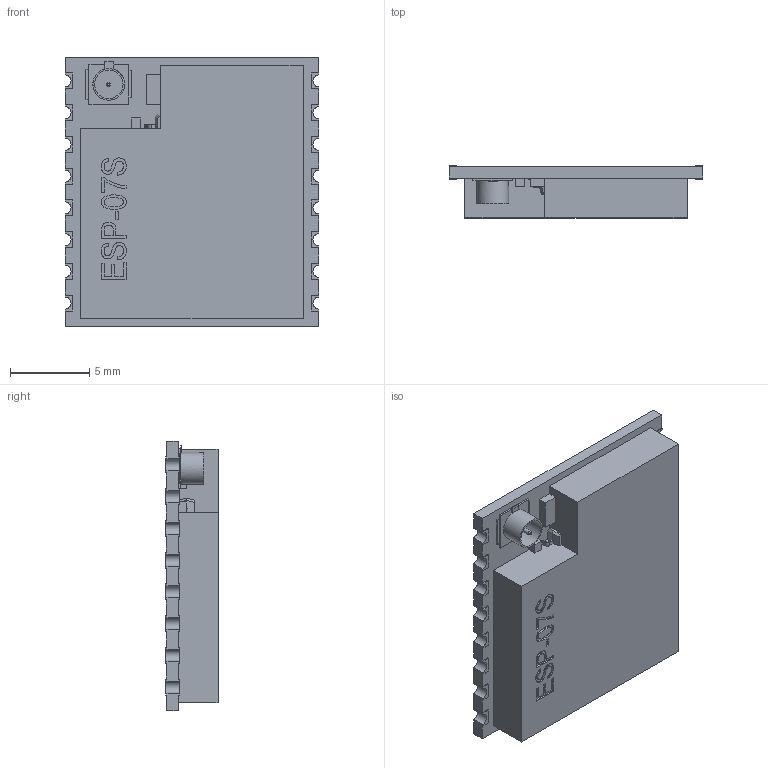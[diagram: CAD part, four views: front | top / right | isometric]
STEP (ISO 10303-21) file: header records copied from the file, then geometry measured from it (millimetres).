
FILE_DESCRIPTION(('FreeCAD Model'),'2;1');
FILE_NAME('Open CASCADE Shape Model','2023-05-06T18:44:57',('Author'),( ''),'Open CASCADE STEP processor 7.5','FreeCAD','Unknown');
FILE_SCHEMA(('AUTOMOTIVE_DESIGN { 1 0 10303 214 1 1 1 1 }'));
Length unit declared in the file: millimetre
Products named in the file (1): esp-07s
Bounding box: 16 x 3.28 x 17 mm (x, y, z)
Volume: 714.6 mm3; surface area: 773.1 mm2
Topology: 1 solids, 1 shells, 316 faces, 900 edges, 597 vertices
Faces by surface type: plane 244, bspline 48, cylinder 23, cone 1
Full cylindrical faces by diameter (mm): 0.281 x1, 1.8 x1, 2 x1
Entity records: 16077 total; most frequent: CARTESIAN_POINT 4661, ORIENTED_EDGE 1786, DIRECTION 1385, EDGE_CURVE 893, VECTOR 749, LINE 749, VERTEX_POINT 595, EDGE_LOOP 332
